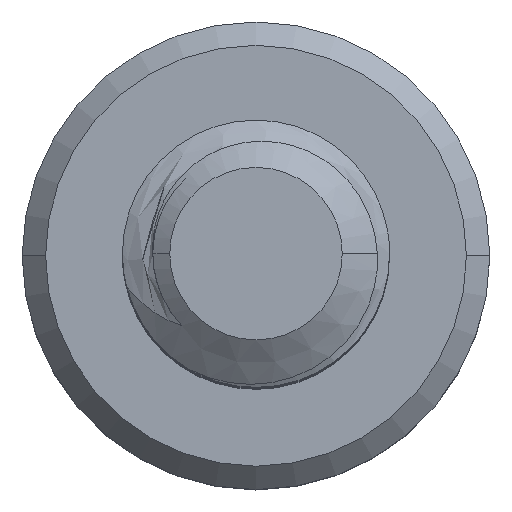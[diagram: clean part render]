
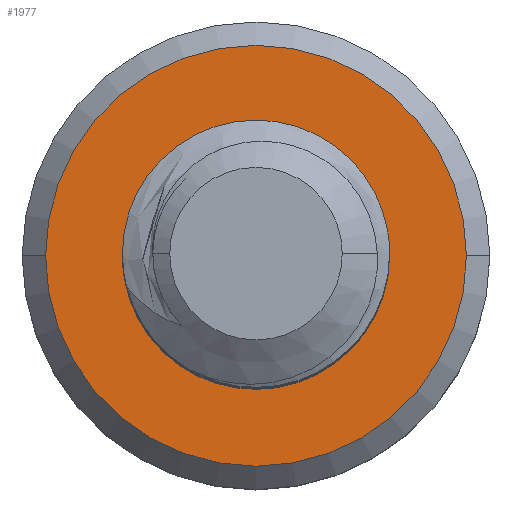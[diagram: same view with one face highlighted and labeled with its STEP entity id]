
A CAD part, top view. The second image highlights one B-rep face of the part: STEP entity #1977.
In plain terms, the highlighted planar face has unit normal (0, 0, 1).
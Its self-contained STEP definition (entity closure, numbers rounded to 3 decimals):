
#2 = EDGE_CURVE ( 'NONE', #6778, #1045, #5416, .T. ) ;
#31 = CARTESIAN_POINT ( 'NONE',  ( -0.829, 1.549, -18. ) ) ;
#93 = CIRCLE ( 'NONE', #1451, 3.15 ) ;
#119 = PLANE ( 'NONE',  #1685 ) ;
#309 = ORIENTED_EDGE ( 'NONE', *, *, #2882, .T. ) ;
#389 = ORIENTED_EDGE ( 'NONE', *, *, #3241, .T. ) ;
#399 = CARTESIAN_POINT ( 'NONE',  ( -3.15, 0., -18. ) ) ;
#473 = CARTESIAN_POINT ( 'NONE',  ( -0.989, 1.476, -18. ) ) ;
#486 = DIRECTION ( 'NONE',  ( 0., 0., 1. ) ) ;
#498 = CARTESIAN_POINT ( 'NONE',  ( -1.281, 1.286, -18. ) ) ;
#622 = EDGE_CURVE ( 'NONE', #6804, #1045, #2030, .T. ) ;
#747 = CARTESIAN_POINT ( 'NONE',  ( 1.569, 0.165, -18. ) ) ;
#817 = CARTESIAN_POINT ( 'NONE',  ( 1.385, -1.017, -18. ) ) ;
#834 = CARTESIAN_POINT ( 'NONE',  ( -0.737, -1.829, -18. ) ) ;
#864 = CARTESIAN_POINT ( 'NONE',  ( 0., 0., -18. ) ) ;
#950 = DIRECTION ( 'NONE',  ( 0., 0., 1. ) ) ;
#1010 = DIRECTION ( 'NONE',  ( 1., 0., 0. ) ) ;
#1045 = VERTEX_POINT ( 'NONE', #1840 ) ;
#1049 = CARTESIAN_POINT ( 'NONE',  ( 0.202, 1.629, -18. ) ) ;
#1165 = FACE_BOUND ( 'NONE', #2733, .T. ) ;
#1315 = CARTESIAN_POINT ( 'NONE',  ( 1.603, -0.357, -18. ) ) ;
#1335 = CARTESIAN_POINT ( 'NONE',  ( -0.219, -1.907, -18. ) ) ;
#1451 = AXIS2_PLACEMENT_3D ( 'NONE', #3217, #2605, #6288 ) ;
#1475 = ORIENTED_EDGE ( 'NONE', *, *, #5689, .T. ) ;
#1515 = CARTESIAN_POINT ( 'NONE',  ( -1.919, 0.265, -18. ) ) ;
#1550 = CARTESIAN_POINT ( 'NONE',  ( 3.15, 0., -18. ) ) ;
#1685 = AXIS2_PLACEMENT_3D ( 'NONE', #2764, #2211, #6447 ) ;
#1766 = CIRCLE ( 'NONE', #2067, 3.15 ) ;
#1840 = CARTESIAN_POINT ( 'NONE',  ( -1.061, -1.695, -18. ) ) ;
#1870 = CARTESIAN_POINT ( 'NONE',  ( 1.058, -1.427, -18. ) ) ;
#1876 = VERTEX_POINT ( 'NONE', #1550 ) ;
#1963 = CARTESIAN_POINT ( 'NONE',  ( -0.396, -1.896, -18. ) ) ;
#1977 = ADVANCED_FACE ( 'NONE', ( #3379, #1165 ), #119, .F. ) ;
#2015 = CARTESIAN_POINT ( 'NONE',  ( -1.971, -0.08, -18. ) ) ;
#2030 = B_SPLINE_CURVE_WITH_KNOTS ( 'NONE', 3,
 ( #4935, #747, #3913, #1315, #5498, #5995, #817, #6531, #1870, #2342, #6555, #3422, #4462, #1335, #1963, #834, #5568, #6128 ),
 .UNSPECIFIED., .F., .F.,
 ( 4, 2, 2, 2, 2, 2, 2, 2, 4 ),
 ( 0., 0.001, 0.001, 0.002, 0.002, 0.003, 0.003, 0.004, 0.004 ),
 .UNSPECIFIED. ) ;
#2067 = AXIS2_PLACEMENT_3D ( 'NONE', #864, #950, #5597 ) ;
#2211 = DIRECTION ( 'NONE',  ( 0., 0., -1. ) ) ;
#2342 = CARTESIAN_POINT ( 'NONE',  ( 0.78, -1.639, -18. ) ) ;
#2605 = DIRECTION ( 'NONE',  ( 0., 0., 1. ) ) ;
#2733 = EDGE_LOOP ( 'NONE', ( #5184, #5934, #309, #4052 ) ) ;
#2742 = DIRECTION ( 'NONE',  ( 0., 0., -1. ) ) ;
#2764 = CARTESIAN_POINT ( 'NONE',  ( 0., 0., -18. ) ) ;
#2882 = EDGE_CURVE ( 'NONE', #3136, #6804, #3025, .T. ) ;
#3025 = CIRCLE ( 'NONE', #3398, 1.545 ) ;
#3063 = CARTESIAN_POINT ( 'NONE',  ( 0.031, 1.659, -18. ) ) ;
#3113 = CARTESIAN_POINT ( 'NONE',  ( -0.493, 1.645, -18. ) ) ;
#3136 = VERTEX_POINT ( 'NONE', #6120 ) ;
#3173 = CARTESIAN_POINT ( 'NONE',  ( 0., 0., -18. ) ) ;
#3217 = CARTESIAN_POINT ( 'NONE',  ( 0., 0., -18. ) ) ;
#3241 = EDGE_CURVE ( 'NONE', #1876, #5096, #93, .T. ) ;
#3379 = FACE_OUTER_BOUND ( 'NONE', #6655, .T. ) ;
#3398 = AXIS2_PLACEMENT_3D ( 'NONE', #5964, #2742, #4928 ) ;
#3422 = CARTESIAN_POINT ( 'NONE',  ( 0.3, -1.847, -18. ) ) ;
#3762 = AXIS2_PLACEMENT_3D ( 'NONE', #3173, #486, #1010 ) ;
#3773 = CARTESIAN_POINT ( 'NONE',  ( -1.954, -0.429, -18. ) ) ;
#3913 = CARTESIAN_POINT ( 'NONE',  ( 1.599, -0.006, -18. ) ) ;
#3991 = CARTESIAN_POINT ( 'NONE',  ( -1.954, -0.429, -18. ) ) ;
#4052 = ORIENTED_EDGE ( 'NONE', *, *, #622, .T. ) ;
#4462 = CARTESIAN_POINT ( 'NONE',  ( 0.127, -1.884, -18. ) ) ;
#4658 = CARTESIAN_POINT ( 'NONE',  ( 0.82, 1.31, -18. ) ) ;
#4928 = DIRECTION ( 'NONE',  ( 1., 0., 0. ) ) ;
#4935 = CARTESIAN_POINT ( 'NONE',  ( 1.509, 0.331, -18. ) ) ;
#5096 = VERTEX_POINT ( 'NONE', #399 ) ;
#5184 = ORIENTED_EDGE ( 'NONE', *, *, #2, .F. ) ;
#5222 = CARTESIAN_POINT ( 'NONE',  ( -1.414, 1.168, -18. ) ) ;
#5243 = CARTESIAN_POINT ( 'NONE',  ( -1.869, 0.434, -18. ) ) ;
#5416 = CIRCLE ( 'NONE', #3762, 2. ) ;
#5498 = CARTESIAN_POINT ( 'NONE',  ( 1.576, -0.529, -18. ) ) ;
#5557 = CARTESIAN_POINT ( 'NONE',  ( -1.974, -0.254, -18. ) ) ;
#5568 = CARTESIAN_POINT ( 'NONE',  ( -0.904, -1.773, -18. ) ) ;
#5597 = DIRECTION ( 'NONE',  ( -1., 0., 0. ) ) ;
#5684 = CARTESIAN_POINT ( 'NONE',  ( 0.684, 1.422, -18. ) ) ;
#5689 = EDGE_CURVE ( 'NONE', #5096, #1876, #1766, .T. ) ;
#5902 = CARTESIAN_POINT ( 'NONE',  ( 1.509, 0.331, -18. ) ) ;
#5934 = ORIENTED_EDGE ( 'NONE', *, *, #6707, .T. ) ;
#5964 = CARTESIAN_POINT ( 'NONE',  ( 0., 0., -18. ) ) ;
#5995 = CARTESIAN_POINT ( 'NONE',  ( 1.466, -0.863, -18. ) ) ;
#6120 = CARTESIAN_POINT ( 'NONE',  ( 0.82, 1.31, -18. ) ) ;
#6128 = CARTESIAN_POINT ( 'NONE',  ( -1.061, -1.695, -18. ) ) ;
#6222 = CARTESIAN_POINT ( 'NONE',  ( -1.728, 0.751, -18. ) ) ;
#6237 = CARTESIAN_POINT ( 'NONE',  ( -1.635, 0.902, -18. ) ) ;
#6284 = CARTESIAN_POINT ( 'NONE',  ( -0.32, 1.667, -18. ) ) ;
#6288 = DIRECTION ( 'NONE',  ( -1., 0., 0. ) ) ;
#6447 = DIRECTION ( 'NONE',  ( -1., 0., 0. ) ) ;
#6531 = CARTESIAN_POINT ( 'NONE',  ( 1.179, -1.302, -18. ) ) ;
#6555 = CARTESIAN_POINT ( 'NONE',  ( 0.626, -1.724, -18. ) ) ;
#6655 = EDGE_LOOP ( 'NONE', ( #1475, #389 ) ) ;
#6707 = EDGE_CURVE ( 'NONE', #6778, #3136, #6772, .T. ) ;
#6740 = CARTESIAN_POINT ( 'NONE',  ( 0.531, 1.509, -18. ) ) ;
#6772 = B_SPLINE_CURVE_WITH_KNOTS ( 'NONE', 3,
 ( #3991, #5557, #2015, #1515, #5243, #6222, #6237, #5222, #498, #473, #31, #3113, #6284, #3063, #1049, #6740, #5684, #4658 ),
 .UNSPECIFIED., .F., .F.,
 ( 4, 2, 2, 2, 2, 2, 2, 2, 4 ),
 ( 0., 0.001, 0.001, 0.002, 0.002, 0.003, 0.003, 0.004, 0.004 ),
 .UNSPECIFIED. ) ;
#6778 = VERTEX_POINT ( 'NONE', #3773 ) ;
#6804 = VERTEX_POINT ( 'NONE', #5902 ) ;
